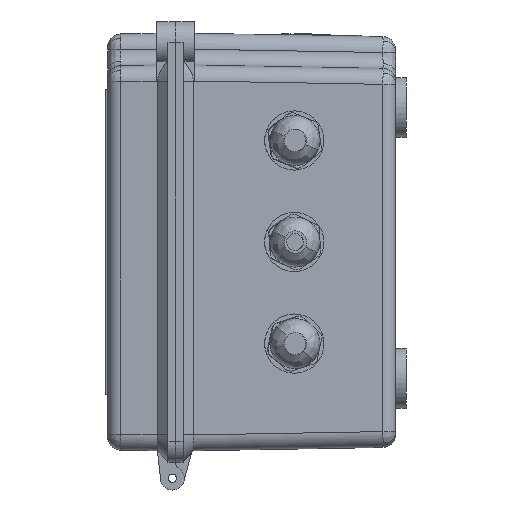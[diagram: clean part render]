
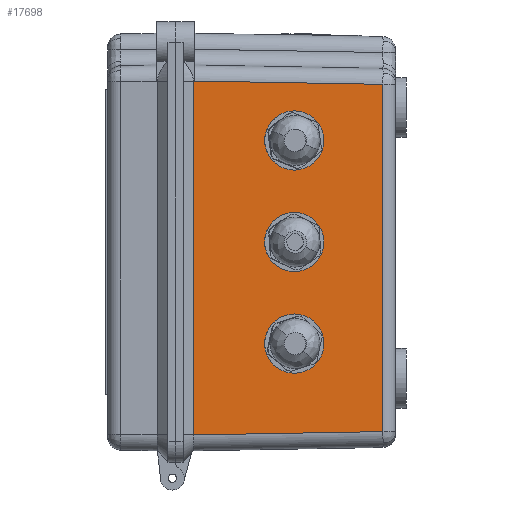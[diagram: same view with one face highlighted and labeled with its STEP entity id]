
A CAD part, left-side view. The second image highlights one B-rep face of the part: STEP entity #17698.
In plain terms, the highlighted planar face has unit normal (-1, -0.018, 0).
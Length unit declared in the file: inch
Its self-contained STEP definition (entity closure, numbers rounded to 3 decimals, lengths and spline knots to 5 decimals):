
#867 = EDGE_CURVE ( 'NONE', #15421, #4054, #10130, .T. ) ;
#1202 = AXIS2_PLACEMENT_3D ( 'NONE', #14918, #22410, #1896 ) ;
#1349 = VERTEX_POINT ( 'NONE', #16065 ) ;
#1355 = VERTEX_POINT ( 'NONE', #21707 ) ;
#1896 = DIRECTION ( 'NONE',  ( 0.017, -1., 0. ) ) ;
#2045 = FACE_BOUND ( 'NONE', #4485, .T. ) ;
#2143 = VERTEX_POINT ( 'NONE', #4553 ) ;
#2681 = DIRECTION ( 'NONE',  ( 0.017, -1., 0. ) ) ;
#2699 = AXIS2_PLACEMENT_3D ( 'NONE', #18734, #3546, #5394 ) ;
#2767 = CIRCLE ( 'NONE', #1202, 0.345 ) ;
#3290 = CARTESIAN_POINT ( 'NONE',  ( -3.03853, -3.06332, -2.79957 ) ) ;
#3386 = VECTOR ( 'NONE', #7269, 39.37008 ) ;
#3440 = ORIENTED_EDGE ( 'NONE', *, *, #11981, .T. ) ;
#3546 = DIRECTION ( 'NONE',  ( -1., -0.017, 0. ) ) ;
#3574 = DIRECTION ( 'NONE',  ( -1., -0.017, 0. ) ) ;
#3887 = DIRECTION ( 'NONE',  ( -0.017, 1., 0.017 ) ) ;
#3965 = EDGE_CURVE ( 'NONE', #4054, #15421, #2767, .T. ) ;
#4018 = EDGE_LOOP ( 'NONE', ( #10378, #13573, #3440, #7970 ) ) ;
#4054 = VERTEX_POINT ( 'NONE', #7270 ) ;
#4470 = LINE ( 'NONE', #19432, #20699 ) ;
#4485 = EDGE_LOOP ( 'NONE', ( #12359, #6881 ) ) ;
#4550 = EDGE_CURVE ( 'NONE', #11403, #1355, #18469, .T. ) ;
#4553 = CARTESIAN_POINT ( 'NONE',  ( -3.05537, -2.09843, 1.5 ) ) ;
#4562 = EDGE_LOOP ( 'NONE', ( #17154, #6797 ) ) ;
#5394 = DIRECTION ( 'NONE',  ( 0.017, -1., 0. ) ) ;
#5895 = DIRECTION ( 'NONE',  ( -1., -0.017, 0. ) ) ;
#6228 = LINE ( 'NONE', #9633, #10053 ) ;
#6769 = CARTESIAN_POINT ( 'NONE',  ( -3.03853, -3.06332, 2.32957 ) ) ;
#6797 = ORIENTED_EDGE ( 'NONE', *, *, #18599, .F. ) ;
#6805 = DIRECTION ( 'NONE',  ( 0.017, -1., 0. ) ) ;
#6881 = ORIENTED_EDGE ( 'NONE', *, *, #3965, .F. ) ;
#7016 = DIRECTION ( 'NONE',  ( 0.017, -1., 0. ) ) ;
#7262 = DIRECTION ( 'NONE',  ( -1., -0.017, 0. ) ) ;
#7269 = DIRECTION ( 'NONE',  ( 0., 0., 1. ) ) ;
#7270 = CARTESIAN_POINT ( 'NONE',  ( -3.06741, -1.40854, 0. ) ) ;
#7380 = CIRCLE ( 'NONE', #21077, 0.345 ) ;
#7497 = CARTESIAN_POINT ( 'NONE',  ( -3.06139, -1.75349, -1.5 ) ) ;
#7970 = ORIENTED_EDGE ( 'NONE', *, *, #9104, .T. ) ;
#8935 = EDGE_CURVE ( 'NONE', #18789, #1349, #6228, .T. ) ;
#9104 = EDGE_CURVE ( 'NONE', #12692, #18789, #16600, .T. ) ;
#9490 = CARTESIAN_POINT ( 'NONE',  ( -3.06139, -1.75349, 1.5 ) ) ;
#9543 = CARTESIAN_POINT ( 'NONE',  ( -3.05537, -2.09843, -1.5 ) ) ;
#9633 = CARTESIAN_POINT ( 'NONE',  ( -3.09207, 0.0041, 2.38311 ) ) ;
#10053 = VECTOR ( 'NONE', #3887, 39.37008 ) ;
#10130 = CIRCLE ( 'NONE', #22277, 0.345 ) ;
#10378 = ORIENTED_EDGE ( 'NONE', *, *, #8935, .T. ) ;
#10592 = EDGE_CURVE ( 'NONE', #1349, #23671, #19626, .T. ) ;
#11024 = FACE_BOUND ( 'NONE', #15422, .T. ) ;
#11403 = VERTEX_POINT ( 'NONE', #9543 ) ;
#11593 = CARTESIAN_POINT ( 'NONE',  ( -3.05537, -2.09843, 0. ) ) ;
#11981 = EDGE_CURVE ( 'NONE', #23671, #12692, #4470, .T. ) ;
#12359 = ORIENTED_EDGE ( 'NONE', *, *, #867, .F. ) ;
#12427 = VERTEX_POINT ( 'NONE', #14499 ) ;
#12542 = AXIS2_PLACEMENT_3D ( 'NONE', #9490, #20787, #15139 ) ;
#12692 = VERTEX_POINT ( 'NONE', #3290 ) ;
#12766 = DIRECTION ( 'NONE',  ( -1., -0.017, 0. ) ) ;
#13189 = EDGE_CURVE ( 'NONE', #2143, #12427, #21940, .T. ) ;
#13476 = CARTESIAN_POINT ( 'NONE',  ( -3.06139, -1.75349, 1.5 ) ) ;
#13573 = ORIENTED_EDGE ( 'NONE', *, *, #10592, .T. ) ;
#14389 = CARTESIAN_POINT ( 'NONE',  ( -3.06139, -1.75349, 0. ) ) ;
#14499 = CARTESIAN_POINT ( 'NONE',  ( -3.06741, -1.40854, 1.5 ) ) ;
#14592 = PLANE ( 'NONE',  #2699 ) ;
#14605 = CARTESIAN_POINT ( 'NONE',  ( -3.06139, -1.75349, -1.5 ) ) ;
#14824 = CARTESIAN_POINT ( 'NONE',  ( -3.08734, -0.26721, -2.84837 ) ) ;
#14918 = CARTESIAN_POINT ( 'NONE',  ( -3.06139, -1.75349, 0. ) ) ;
#15139 = DIRECTION ( 'NONE',  ( 0.017, -1., 0. ) ) ;
#15271 = CIRCLE ( 'NONE', #23909, 0.345 ) ;
#15421 = VERTEX_POINT ( 'NONE', #11593 ) ;
#15422 = EDGE_LOOP ( 'NONE', ( #16897, #15830 ) ) ;
#15632 = DIRECTION ( 'NONE',  ( 0.017, -1., 0.017 ) ) ;
#15830 = ORIENTED_EDGE ( 'NONE', *, *, #16480, .F. ) ;
#16065 = CARTESIAN_POINT ( 'NONE',  ( -3.08734, -0.26721, 2.37837 ) ) ;
#16069 = CARTESIAN_POINT ( 'NONE',  ( -3.08734, -0.26721, 2.618 ) ) ;
#16480 = EDGE_CURVE ( 'NONE', #12427, #2143, #7380, .T. ) ;
#16600 = LINE ( 'NONE', #24078, #3386 ) ;
#16897 = ORIENTED_EDGE ( 'NONE', *, *, #13189, .F. ) ;
#17154 = ORIENTED_EDGE ( 'NONE', *, *, #4550, .F. ) ;
#17698 = ADVANCED_FACE ( 'NONE', ( #22310, #11024, #2045, #18510 ), #14592, .T. ) ;
#18469 = CIRCLE ( 'NONE', #20421, 0.345 ) ;
#18510 = FACE_OUTER_BOUND ( 'NONE', #4018, .T. ) ;
#18599 = EDGE_CURVE ( 'NONE', #1355, #11403, #15271, .T. ) ;
#18734 = CARTESIAN_POINT ( 'NONE',  ( -3.092, 0., 2.618 ) ) ;
#18766 = DIRECTION ( 'NONE',  ( 0.017, -1., 0. ) ) ;
#18789 = VERTEX_POINT ( 'NONE', #6769 ) ;
#19432 = CARTESIAN_POINT ( 'NONE',  ( -3.09033, -0.09544, -2.85137 ) ) ;
#19626 = LINE ( 'NONE', #16069, #23837 ) ;
#20421 = AXIS2_PLACEMENT_3D ( 'NONE', #14605, #12766, #7016 ) ;
#20699 = VECTOR ( 'NONE', #15632, 39.37008 ) ;
#20787 = DIRECTION ( 'NONE',  ( -1., -0.017, 0. ) ) ;
#21077 = AXIS2_PLACEMENT_3D ( 'NONE', #13476, #5895, #2681 ) ;
#21707 = CARTESIAN_POINT ( 'NONE',  ( -3.06741, -1.40854, -1.5 ) ) ;
#21940 = CIRCLE ( 'NONE', #12542, 0.345 ) ;
#22277 = AXIS2_PLACEMENT_3D ( 'NONE', #14389, #7262, #6805 ) ;
#22310 = FACE_BOUND ( 'NONE', #4562, .T. ) ;
#22410 = DIRECTION ( 'NONE',  ( -1., -0.017, 0. ) ) ;
#23671 = VERTEX_POINT ( 'NONE', #14824 ) ;
#23680 = DIRECTION ( 'NONE',  ( 0., 0., -1. ) ) ;
#23837 = VECTOR ( 'NONE', #23680, 39.37008 ) ;
#23909 = AXIS2_PLACEMENT_3D ( 'NONE', #7497, #3574, #18766 ) ;
#24078 = CARTESIAN_POINT ( 'NONE',  ( -3.03853, -3.06332, 2.618 ) ) ;
